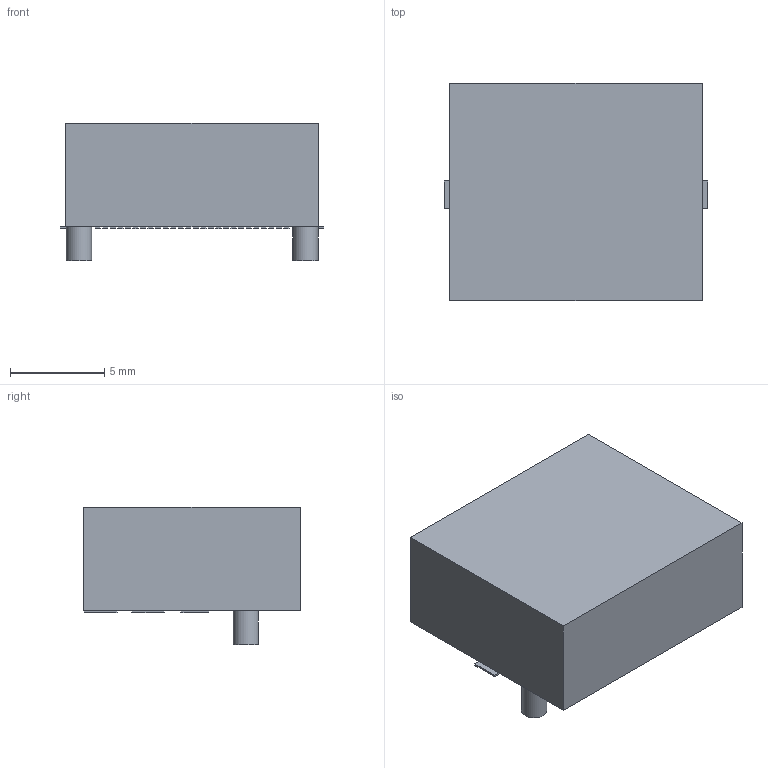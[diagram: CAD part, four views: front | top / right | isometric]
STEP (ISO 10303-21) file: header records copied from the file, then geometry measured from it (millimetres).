
FILE_DESCRIPTION(('FreeCAD Model'),'2;1');
FILE_NAME('/var/www/3D/0T/2301517.1.4.stp','2021-11-11T20:44:57',( 'Author'),(''),'Open CASCADE STEP processor 6.9','FreeCAD','Unknown' );
FILE_SCHEMA(('AUTOMOTIVE_DESIGN { 1 0 10303 214 1 1 1 1 }'));
Length unit declared in the file: millimetre
Products named in the file (4): ASSEMBLY; Body; Pins; Lugs
Assembly tree (3 placements, depth 2):
  ASSEMBLY
    Body
    Pins
    Lugs
Bounding box: 13.99 x 11.5 x 7.28 mm (x, y, z)
Volume: 850.5 mm3; surface area: 644.1 mm2
Topology: 31 solids, 31 shells, 180 faces, 354 edges, 236 vertices
Faces by surface type: plane 178, cylinder 2
Full cylindrical faces by diameter (mm): 1.35 x2
Entity records: 9412 total; most frequent: CARTESIAN_POINT 1482, DIRECTION 1434, LINE 1054, VECTOR 1054, ORIENTED_EDGE 708, PCURVE 708, DEFINITIONAL_REPRESENTATION 708, EDGE_CURVE 354
